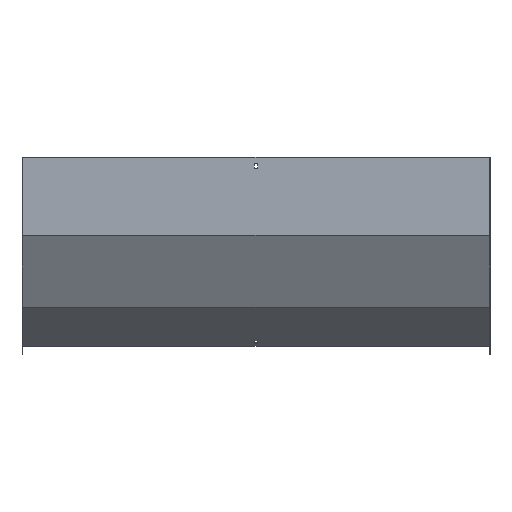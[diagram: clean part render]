
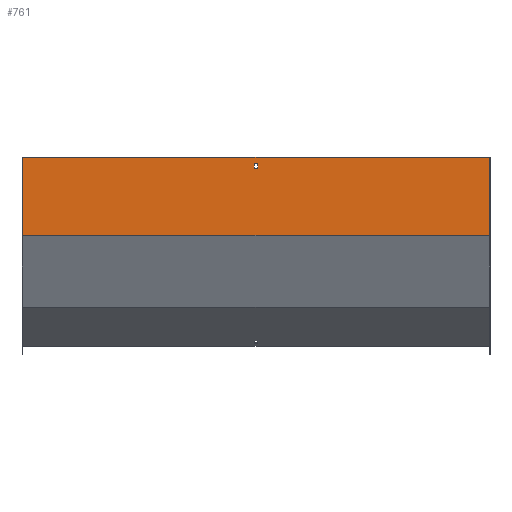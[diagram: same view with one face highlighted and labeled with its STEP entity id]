
A CAD part, front view. The second image highlights one B-rep face of the part: STEP entity #761.
In plain terms, the highlighted planar face has unit normal (0, -1, 0).
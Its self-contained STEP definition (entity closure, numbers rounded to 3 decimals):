
#1 = ORIENTED_EDGE ( 'NONE', *, *, #458, .F. ) ;
#38 = EDGE_CURVE ( 'NONE', #516, #531, #551, .T. ) ;
#45 = DIRECTION ( 'NONE',  ( -1., 0., 0. ) ) ;
#54 = VECTOR ( 'NONE', #791, 1000. ) ;
#67 = LINE ( 'NONE', #261, #54 ) ;
#89 = VERTEX_POINT ( 'NONE', #218 ) ;
#90 = DIRECTION ( 'NONE',  ( -1., 0., 0. ) ) ;
#99 = DIRECTION ( 'NONE',  ( 0., 0., -1. ) ) ;
#100 = CARTESIAN_POINT ( 'NONE',  ( 451.5, -1.5, -21. ) ) ;
#106 = VECTOR ( 'NONE', #130, 1000. ) ;
#129 = CARTESIAN_POINT ( 'NONE',  ( 3.25, -1.5, -21. ) ) ;
#130 = DIRECTION ( 'NONE',  ( 0., 0., -1. ) ) ;
#150 = FACE_BOUND ( 'NONE', #678, .T. ) ;
#155 = ORIENTED_EDGE ( 'NONE', *, *, #541, .T. ) ;
#157 = EDGE_CURVE ( 'NONE', #274, #803, #573, .T. ) ;
#163 = CARTESIAN_POINT ( 'NONE',  ( -3.25, -1.5, -12. ) ) ;
#164 = VECTOR ( 'NONE', #99, 1000. ) ;
#169 = CARTESIAN_POINT ( 'NONE',  ( 450., -1.5, 0. ) ) ;
#188 = EDGE_CURVE ( 'NONE', #795, #278, #841, .T. ) ;
#196 = CARTESIAN_POINT ( 'NONE',  ( -3.25, -1.5, 0. ) ) ;
#218 = CARTESIAN_POINT ( 'NONE',  ( 450., -1.5, -150.102 ) ) ;
#242 = CARTESIAN_POINT ( 'NONE',  ( 451.5, -1.5, -12. ) ) ;
#256 = VECTOR ( 'NONE', #90, 1000. ) ;
#261 = CARTESIAN_POINT ( 'NONE',  ( 3.25, -1.5, 0. ) ) ;
#274 = VERTEX_POINT ( 'NONE', #724 ) ;
#275 = CARTESIAN_POINT ( 'NONE',  ( -450., -1.5, 0. ) ) ;
#278 = VERTEX_POINT ( 'NONE', #524 ) ;
#300 = DIRECTION ( 'NONE',  ( 0., 0., -1. ) ) ;
#303 = FACE_OUTER_BOUND ( 'NONE', #685, .T. ) ;
#312 = CARTESIAN_POINT ( 'NONE',  ( 451.5, -1.5, 0. ) ) ;
#356 = CARTESIAN_POINT ( 'NONE',  ( 451.5, -1.5, 0. ) ) ;
#363 = DIRECTION ( 'NONE',  ( 1., 0., 0. ) ) ;
#414 = ORIENTED_EDGE ( 'NONE', *, *, #505, .F. ) ;
#415 = VECTOR ( 'NONE', #300, 1000. ) ;
#421 = LINE ( 'NONE', #689, #256 ) ;
#434 = CARTESIAN_POINT ( 'NONE',  ( 450., -1.5, 0. ) ) ;
#458 = EDGE_CURVE ( 'NONE', #89, #278, #421, .T. ) ;
#474 = PLANE ( 'NONE',  #720 ) ;
#475 = ORIENTED_EDGE ( 'NONE', *, *, #157, .F. ) ;
#505 = EDGE_CURVE ( 'NONE', #803, #516, #653, .T. ) ;
#516 = VERTEX_POINT ( 'NONE', #726 ) ;
#524 = CARTESIAN_POINT ( 'NONE',  ( -450., -1.5, -150.102 ) ) ;
#531 = VERTEX_POINT ( 'NONE', #129 ) ;
#538 = ORIENTED_EDGE ( 'NONE', *, *, #566, .F. ) ;
#541 = EDGE_CURVE ( 'NONE', #649, #795, #727, .T. ) ;
#542 = ORIENTED_EDGE ( 'NONE', *, *, #642, .F. ) ;
#544 = ORIENTED_EDGE ( 'NONE', *, *, #38, .F. ) ;
#551 = LINE ( 'NONE', #100, #654 ) ;
#566 = EDGE_CURVE ( 'NONE', #531, #274, #67, .T. ) ;
#573 = LINE ( 'NONE', #242, #793 ) ;
#596 = ORIENTED_EDGE ( 'NONE', *, *, #188, .T. ) ;
#621 = DIRECTION ( 'NONE',  ( 0., 1., 0. ) ) ;
#642 = EDGE_CURVE ( 'NONE', #649, #89, #847, .T. ) ;
#649 = VERTEX_POINT ( 'NONE', #169 ) ;
#653 = LINE ( 'NONE', #196, #106 ) ;
#654 = VECTOR ( 'NONE', #363, 1000. ) ;
#678 = EDGE_LOOP ( 'NONE', ( #538, #544, #414, #475 ) ) ;
#685 = EDGE_LOOP ( 'NONE', ( #596, #1, #542, #155 ) ) ;
#689 = CARTESIAN_POINT ( 'NONE',  ( 451.5, -1.5, -150.102 ) ) ;
#720 = AXIS2_PLACEMENT_3D ( 'NONE', #356, #621, #746 ) ;
#721 = VECTOR ( 'NONE', #45, 1000. ) ;
#724 = CARTESIAN_POINT ( 'NONE',  ( 3.25, -1.5, -12. ) ) ;
#726 = CARTESIAN_POINT ( 'NONE',  ( -3.25, -1.5, -21. ) ) ;
#727 = LINE ( 'NONE', #312, #721 ) ;
#746 = DIRECTION ( 'NONE',  ( 0., 0., 1. ) ) ;
#761 = ADVANCED_FACE ( 'NONE', ( #303, #150 ), #474, .F. ) ;
#779 = CARTESIAN_POINT ( 'NONE',  ( -450., -1.5, 0. ) ) ;
#791 = DIRECTION ( 'NONE',  ( 0., 0., 1. ) ) ;
#793 = VECTOR ( 'NONE', #832, 1000. ) ;
#795 = VERTEX_POINT ( 'NONE', #275 ) ;
#803 = VERTEX_POINT ( 'NONE', #163 ) ;
#832 = DIRECTION ( 'NONE',  ( -1., 0., 0. ) ) ;
#841 = LINE ( 'NONE', #779, #415 ) ;
#847 = LINE ( 'NONE', #434, #164 ) ;
